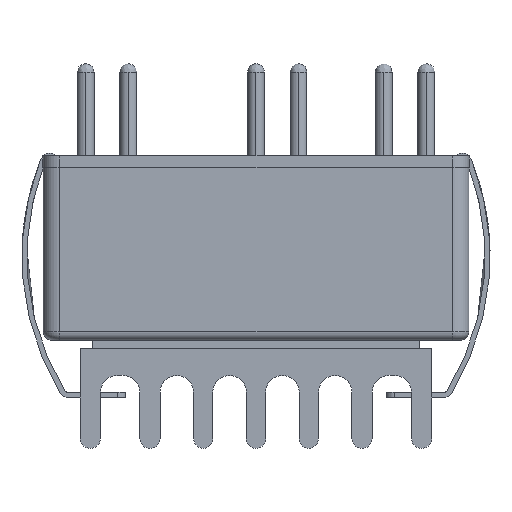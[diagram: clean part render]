
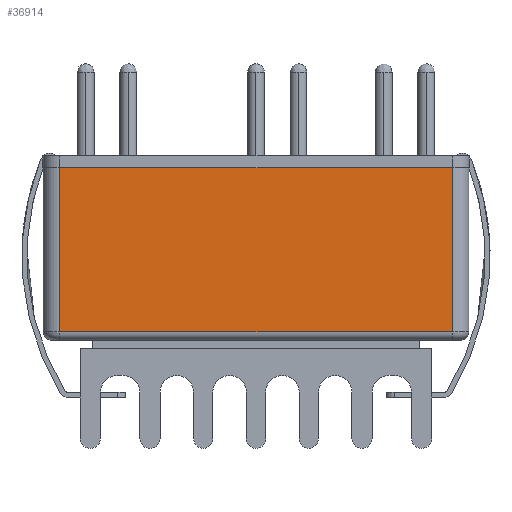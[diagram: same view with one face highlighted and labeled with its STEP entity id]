
A CAD part, left-side view. The second image highlights one B-rep face of the part: STEP entity #36914.
In plain terms, the highlighted planar face has unit normal (-1, 0, 0).
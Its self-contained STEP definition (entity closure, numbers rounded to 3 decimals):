
#2822 = VERTEX_POINT ( 'NONE', #25654 ) ;
#7284 = FACE_OUTER_BOUND ( 'NONE', #38642, .T. ) ;
#10318 = PLANE ( 'NONE',  #26923 ) ;
#10784 = LINE ( 'NONE', #41646, #38203 ) ;
#10867 = VECTOR ( 'NONE', #44789, 1000. ) ;
#12020 = LINE ( 'NONE', #41241, #10867 ) ;
#12344 = LINE ( 'NONE', #19606, #20783 ) ;
#14025 = CARTESIAN_POINT ( 'NONE',  ( -25.45, 11.7, 0. ) ) ;
#17361 = VERTEX_POINT ( 'NONE', #44137 ) ;
#17744 = CARTESIAN_POINT ( 'NONE',  ( -25.45, -12.7, 0. ) ) ;
#19606 = CARTESIAN_POINT ( 'NONE',  ( -25.45, -11.7, 0. ) ) ;
#20783 = VECTOR ( 'NONE', #23217, 1000. ) ;
#20931 = LINE ( 'NONE', #14025, #38754 ) ;
#21327 = DIRECTION ( 'NONE',  ( 0., 0., 1. ) ) ;
#23217 = DIRECTION ( 'NONE',  ( 0., 0., 1. ) ) ;
#23510 = ORIENTED_EDGE ( 'NONE', *, *, #46037, .T. ) ;
#24084 = DIRECTION ( 'NONE',  ( 0., 1., 0. ) ) ;
#24503 = EDGE_CURVE ( 'NONE', #2822, #31731, #12344, .T. ) ;
#25654 = CARTESIAN_POINT ( 'NONE',  ( -25.45, -11.7, 0.5 ) ) ;
#26252 = ORIENTED_EDGE ( 'NONE', *, *, #24503, .T. ) ;
#26923 = AXIS2_PLACEMENT_3D ( 'NONE', #17744, #42580, #21327 ) ;
#28182 = DIRECTION ( 'NONE',  ( 0., 0., -1. ) ) ;
#31731 = VERTEX_POINT ( 'NONE', #36336 ) ;
#33967 = ORIENTED_EDGE ( 'NONE', *, *, #35779, .T. ) ;
#35052 = EDGE_CURVE ( 'NONE', #17361, #2822, #12020, .T. ) ;
#35779 = EDGE_CURVE ( 'NONE', #31731, #43633, #10784, .T. ) ;
#36336 = CARTESIAN_POINT ( 'NONE',  ( -25.45, -11.7, 10.3 ) ) ;
#36914 = ADVANCED_FACE ( 'NONE', ( #7284 ), #10318, .T. ) ;
#37002 = ORIENTED_EDGE ( 'NONE', *, *, #35052, .T. ) ;
#38203 = VECTOR ( 'NONE', #24084, 1000. ) ;
#38642 = EDGE_LOOP ( 'NONE', ( #23510, #37002, #26252, #33967 ) ) ;
#38754 = VECTOR ( 'NONE', #28182, 1000. ) ;
#40867 = CARTESIAN_POINT ( 'NONE',  ( -25.45, 11.7, 10.3 ) ) ;
#41241 = CARTESIAN_POINT ( 'NONE',  ( -25.45, -12.7, 0.5 ) ) ;
#41646 = CARTESIAN_POINT ( 'NONE',  ( -25.45, 0., 10.3 ) ) ;
#42580 = DIRECTION ( 'NONE',  ( -1., 0., 0. ) ) ;
#43633 = VERTEX_POINT ( 'NONE', #40867 ) ;
#44137 = CARTESIAN_POINT ( 'NONE',  ( -25.45, 11.7, 0.5 ) ) ;
#44789 = DIRECTION ( 'NONE',  ( 0., -1., 0. ) ) ;
#46037 = EDGE_CURVE ( 'NONE', #43633, #17361, #20931, .T. ) ;
